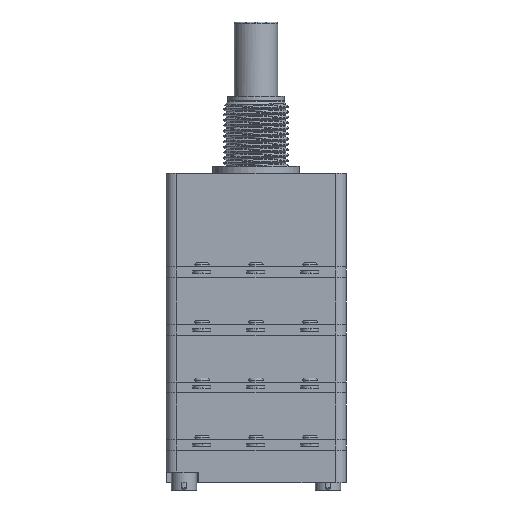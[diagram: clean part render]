
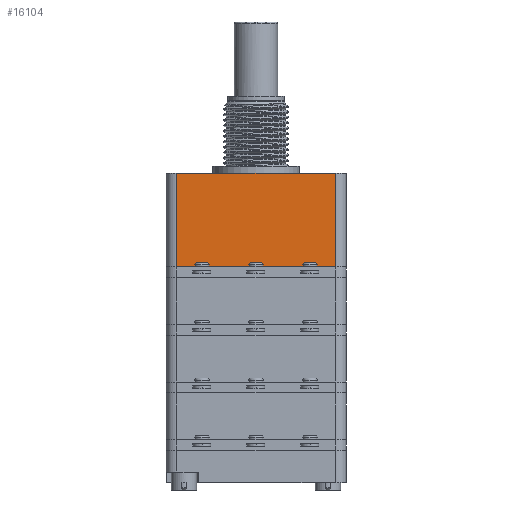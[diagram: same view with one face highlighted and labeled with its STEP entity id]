
A CAD part, front view. The second image highlights one B-rep face of the part: STEP entity #16104.
In plain terms, the highlighted planar face has unit normal (0, -1, 0).
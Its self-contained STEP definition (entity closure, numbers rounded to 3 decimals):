
#12566 = PLANE('',#12567);
#12567 = AXIS2_PLACEMENT_3D('',#12568,#12569,#12570);
#12568 = CARTESIAN_POINT('',(-12.5,-18.,-14.));
#12569 = DIRECTION('',(0.,0.,1.));
#12570 = DIRECTION('',(1.,0.,0.));
#14731 = VERTEX_POINT('',#14732);
#14732 = CARTESIAN_POINT('',(11.,-12.5,-14.));
#14747 = CYLINDRICAL_SURFACE('',#14748,1.5);
#14748 = AXIS2_PLACEMENT_3D('',#14749,#14750,#14751);
#14749 = CARTESIAN_POINT('',(11.,-11.,-14.));
#14750 = DIRECTION('',(0.,0.,1.));
#14751 = DIRECTION('',(0.,-1.,0.));
#14759 = EDGE_CURVE('',#14760,#14731,#14762,.T.);
#14760 = VERTEX_POINT('',#14761);
#14761 = CARTESIAN_POINT('',(-11.,-12.5,-14.));
#14762 = SURFACE_CURVE('',#14763,(#14767,#14774),.PCURVE_S1.);
#14763 = LINE('',#14764,#14765);
#14764 = CARTESIAN_POINT('',(-12.5,-12.5,-14.));
#14765 = VECTOR('',#14766,1.);
#14766 = DIRECTION('',(1.,0.,0.));
#14767 = PCURVE('',#12566,#14768);
#14768 = DEFINITIONAL_REPRESENTATION('',(#14769),#14773);
#14769 = LINE('',#14770,#14771);
#14770 = CARTESIAN_POINT('',(0.,5.5));
#14771 = VECTOR('',#14772,1.);
#14772 = DIRECTION('',(1.,0.));
#14773 = ( GEOMETRIC_REPRESENTATION_CONTEXT(2) 
PARAMETRIC_REPRESENTATION_CONTEXT() REPRESENTATION_CONTEXT('2D SPACE',''
  ) );
#14774 = PCURVE('',#14775,#14780);
#14775 = PLANE('',#14776);
#14776 = AXIS2_PLACEMENT_3D('',#14777,#14778,#14779);
#14777 = CARTESIAN_POINT('',(-12.5,-12.5,-14.));
#14778 = DIRECTION('',(0.,1.,0.));
#14779 = DIRECTION('',(0.,0.,1.));
#14780 = DEFINITIONAL_REPRESENTATION('',(#14781),#14785);
#14781 = LINE('',#14782,#14783);
#14782 = CARTESIAN_POINT('',(0.,0.));
#14783 = VECTOR('',#14784,1.);
#14784 = DIRECTION('',(0.,1.));
#14785 = ( GEOMETRIC_REPRESENTATION_CONTEXT(2) 
PARAMETRIC_REPRESENTATION_CONTEXT() REPRESENTATION_CONTEXT('2D SPACE',''
  ) );
#14802 = CYLINDRICAL_SURFACE('',#14803,1.5);
#14803 = AXIS2_PLACEMENT_3D('',#14804,#14805,#14806);
#14804 = CARTESIAN_POINT('',(-11.,-11.,-14.));
#14805 = DIRECTION('',(0.,0.,1.));
#14806 = DIRECTION('',(-1.,0.,0.));
#14940 = PLANE('',#14941);
#14941 = AXIS2_PLACEMENT_3D('',#14942,#14943,#14944);
#14942 = CARTESIAN_POINT('',(-12.5,-12.5,-1.));
#14943 = DIRECTION('',(0.,0.,1.));
#14944 = DIRECTION('',(1.,0.,0.));
#16037 = EDGE_CURVE('',#14760,#16038,#16040,.T.);
#16038 = VERTEX_POINT('',#16039);
#16039 = CARTESIAN_POINT('',(-11.,-12.5,-1.));
#16040 = SURFACE_CURVE('',#16041,(#16045,#16052),.PCURVE_S1.);
#16041 = LINE('',#16042,#16043);
#16042 = CARTESIAN_POINT('',(-11.,-12.5,-14.));
#16043 = VECTOR('',#16044,1.);
#16044 = DIRECTION('',(0.,0.,1.));
#16045 = PCURVE('',#14802,#16046);
#16046 = DEFINITIONAL_REPRESENTATION('',(#16047),#16051);
#16047 = LINE('',#16048,#16049);
#16048 = CARTESIAN_POINT('',(1.571,0.));
#16049 = VECTOR('',#16050,1.);
#16050 = DIRECTION('',(0.,1.));
#16051 = ( GEOMETRIC_REPRESENTATION_CONTEXT(2) 
PARAMETRIC_REPRESENTATION_CONTEXT() REPRESENTATION_CONTEXT('2D SPACE',''
  ) );
#16052 = PCURVE('',#14775,#16053);
#16053 = DEFINITIONAL_REPRESENTATION('',(#16054),#16058);
#16054 = LINE('',#16055,#16056);
#16055 = CARTESIAN_POINT('',(0.,1.5));
#16056 = VECTOR('',#16057,1.);
#16057 = DIRECTION('',(1.,0.));
#16058 = ( GEOMETRIC_REPRESENTATION_CONTEXT(2) 
PARAMETRIC_REPRESENTATION_CONTEXT() REPRESENTATION_CONTEXT('2D SPACE',''
  ) );
#16104 = ADVANCED_FACE('',(#16105),#14775,.F.);
#16105 = FACE_BOUND('',#16106,.F.);
#16106 = EDGE_LOOP('',(#16107,#16108,#16109,#16132));
#16107 = ORIENTED_EDGE('',*,*,#14759,.F.);
#16108 = ORIENTED_EDGE('',*,*,#16037,.T.);
#16109 = ORIENTED_EDGE('',*,*,#16110,.T.);
#16110 = EDGE_CURVE('',#16038,#16111,#16113,.T.);
#16111 = VERTEX_POINT('',#16112);
#16112 = CARTESIAN_POINT('',(11.,-12.5,-1.));
#16113 = SURFACE_CURVE('',#16114,(#16118,#16125),.PCURVE_S1.);
#16114 = LINE('',#16115,#16116);
#16115 = CARTESIAN_POINT('',(-12.5,-12.5,-1.));
#16116 = VECTOR('',#16117,1.);
#16117 = DIRECTION('',(1.,0.,0.));
#16118 = PCURVE('',#14775,#16119);
#16119 = DEFINITIONAL_REPRESENTATION('',(#16120),#16124);
#16120 = LINE('',#16121,#16122);
#16121 = CARTESIAN_POINT('',(13.,0.));
#16122 = VECTOR('',#16123,1.);
#16123 = DIRECTION('',(0.,1.));
#16124 = ( GEOMETRIC_REPRESENTATION_CONTEXT(2) 
PARAMETRIC_REPRESENTATION_CONTEXT() REPRESENTATION_CONTEXT('2D SPACE',''
  ) );
#16125 = PCURVE('',#14940,#16126);
#16126 = DEFINITIONAL_REPRESENTATION('',(#16127),#16131);
#16127 = LINE('',#16128,#16129);
#16128 = CARTESIAN_POINT('',(0.,0.));
#16129 = VECTOR('',#16130,1.);
#16130 = DIRECTION('',(1.,0.));
#16131 = ( GEOMETRIC_REPRESENTATION_CONTEXT(2) 
PARAMETRIC_REPRESENTATION_CONTEXT() REPRESENTATION_CONTEXT('2D SPACE',''
  ) );
#16132 = ORIENTED_EDGE('',*,*,#16133,.F.);
#16133 = EDGE_CURVE('',#14731,#16111,#16134,.T.);
#16134 = SURFACE_CURVE('',#16135,(#16139,#16146),.PCURVE_S1.);
#16135 = LINE('',#16136,#16137);
#16136 = CARTESIAN_POINT('',(11.,-12.5,-14.));
#16137 = VECTOR('',#16138,1.);
#16138 = DIRECTION('',(0.,0.,1.));
#16139 = PCURVE('',#14775,#16140);
#16140 = DEFINITIONAL_REPRESENTATION('',(#16141),#16145);
#16141 = LINE('',#16142,#16143);
#16142 = CARTESIAN_POINT('',(0.,23.5));
#16143 = VECTOR('',#16144,1.);
#16144 = DIRECTION('',(1.,0.));
#16145 = ( GEOMETRIC_REPRESENTATION_CONTEXT(2) 
PARAMETRIC_REPRESENTATION_CONTEXT() REPRESENTATION_CONTEXT('2D SPACE',''
  ) );
#16146 = PCURVE('',#14747,#16147);
#16147 = DEFINITIONAL_REPRESENTATION('',(#16148),#16152);
#16148 = LINE('',#16149,#16150);
#16149 = CARTESIAN_POINT('',(0.,0.));
#16150 = VECTOR('',#16151,1.);
#16151 = DIRECTION('',(0.,1.));
#16152 = ( GEOMETRIC_REPRESENTATION_CONTEXT(2) 
PARAMETRIC_REPRESENTATION_CONTEXT() REPRESENTATION_CONTEXT('2D SPACE',''
  ) );
